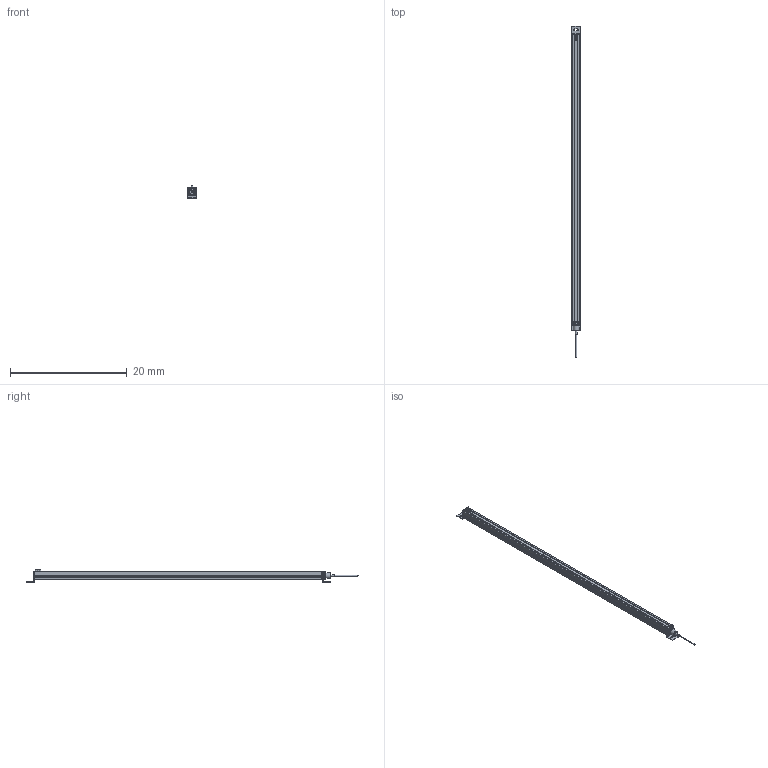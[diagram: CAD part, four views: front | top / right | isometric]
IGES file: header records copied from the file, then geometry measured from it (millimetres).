
Start section:  Autodesk DirectConnect version 7.0.27.0 ---- IGES version 5.3
Global section: file name: C:\ACADFILES\MG_PYLONS\CUSTOMER_FILES\MG-48-PYLON_3D_L.iges; native system: Autodesk DirectConnect 7.0.27.0; preprocessor: 7.0.27.0; author: ENGINEERMAIN; organization: Unknown; date: 20150810.142619; units: millimetre
Bounding box: 1.46 x 56.85 x 2.11 mm (x, y, z)
Surface area: 746.7 mm2 (no closed solid volume)
Topology: 0 solids, 0 shells, 630 faces, 3369 edges, 3383 vertices
Faces by surface type: bspline 630
